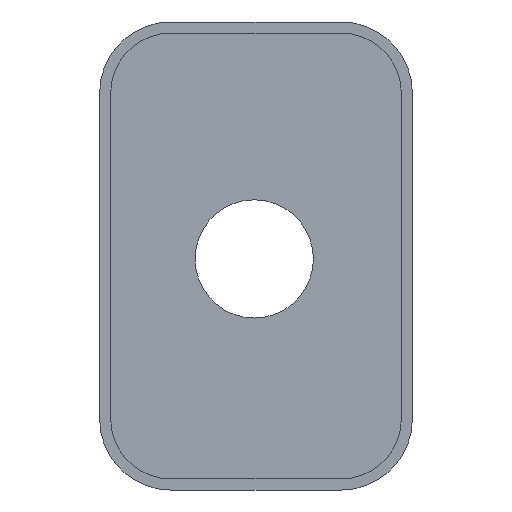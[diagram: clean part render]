
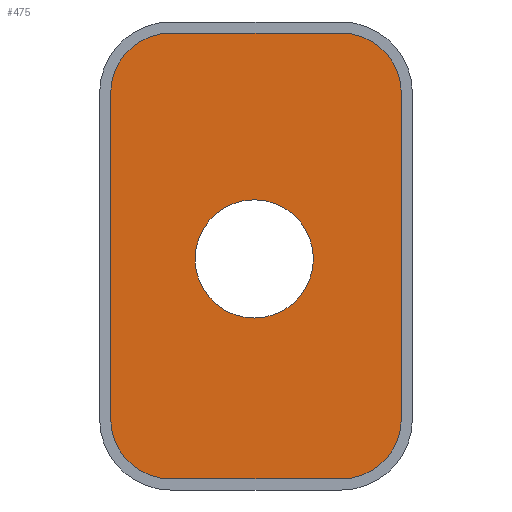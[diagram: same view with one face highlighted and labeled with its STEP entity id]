
A CAD part, front view. The second image highlights one B-rep face of the part: STEP entity #475.
In plain terms, the highlighted planar face has unit normal (0, -1, 0).
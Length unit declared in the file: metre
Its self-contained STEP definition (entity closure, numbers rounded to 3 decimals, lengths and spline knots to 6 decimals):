
#27=PLANE('',#540);
#37=CIRCLE('',#515,0.004272);
#47=CIRCLE('',#530,0.004346);
#48=CIRCLE('',#533,0.004346);
#49=CIRCLE('',#536,0.004346);
#50=CIRCLE('',#539,0.004346);
#150=ORIENTED_EDGE('',*,*,#216,.T.);
#151=ORIENTED_EDGE('',*,*,#237,.F.);
#152=ORIENTED_EDGE('',*,*,#251,.F.);
#153=ORIENTED_EDGE('',*,*,#249,.T.);
#154=ORIENTED_EDGE('',*,*,#247,.F.);
#155=ORIENTED_EDGE('',*,*,#245,.T.);
#156=ORIENTED_EDGE('',*,*,#243,.F.);
#157=ORIENTED_EDGE('',*,*,#241,.F.);
#158=ORIENTED_EDGE('',*,*,#239,.F.);
#216=EDGE_CURVE('',#277,#277,#37,.T.);
#237=EDGE_CURVE('',#295,#296,#328,.T.);
#239=EDGE_CURVE('',#296,#297,#47,.T.);
#241=EDGE_CURVE('',#297,#298,#331,.T.);
#243=EDGE_CURVE('',#298,#299,#48,.T.);
#245=EDGE_CURVE('',#300,#299,#334,.T.);
#247=EDGE_CURVE('',#300,#301,#49,.T.);
#249=EDGE_CURVE('',#302,#301,#337,.T.);
#251=EDGE_CURVE('',#302,#295,#50,.T.);
#277=VERTEX_POINT('',#766);
#295=VERTEX_POINT('',#808);
#296=VERTEX_POINT('',#810);
#297=VERTEX_POINT('',#814);
#298=VERTEX_POINT('',#818);
#299=VERTEX_POINT('',#822);
#300=VERTEX_POINT('',#826);
#301=VERTEX_POINT('',#830);
#302=VERTEX_POINT('',#834);
#328=LINE('',#809,#364);
#331=LINE('',#817,#367);
#334=LINE('',#825,#370);
#337=LINE('',#833,#373);
#364=VECTOR('',#647,1.);
#367=VECTOR('',#656,1.);
#370=VECTOR('',#665,1.);
#373=VECTOR('',#674,1.);
#397=EDGE_LOOP('',(#150));
#398=EDGE_LOOP('',(#151,#152,#153,#154,#155,#156,#157,#158));
#431=FACE_BOUND('',#397,.T.);
#432=FACE_BOUND('',#398,.T.);
#475=ADVANCED_FACE('',(#431,#432),#27,.F.);
#515=AXIS2_PLACEMENT_3D('',#765,#608,#609);
#530=AXIS2_PLACEMENT_3D('',#813,#651,#652);
#533=AXIS2_PLACEMENT_3D('',#821,#660,#661);
#536=AXIS2_PLACEMENT_3D('',#829,#669,#670);
#539=AXIS2_PLACEMENT_3D('',#837,#678,#679);
#540=AXIS2_PLACEMENT_3D('',#838,#680,#681);
#608=DIRECTION('',(0.,1.,0.));
#609=DIRECTION('',(1.,0.,0.));
#647=DIRECTION('',(0.,0.,1.));
#651=DIRECTION('',(0.,1.,0.));
#652=DIRECTION('',(-1.,0.,0.));
#656=DIRECTION('',(1.,0.,0.));
#660=DIRECTION('',(0.,1.,0.));
#661=DIRECTION('',(0.,0.,1.));
#665=DIRECTION('',(0.,0.,1.));
#669=DIRECTION('',(0.,1.,0.));
#670=DIRECTION('',(1.,0.,0.));
#674=DIRECTION('',(1.,0.,0.));
#678=DIRECTION('',(0.,1.,0.));
#679=DIRECTION('',(0.,0.,-1.));
#680=DIRECTION('',(0.,1.,0.));
#681=DIRECTION('',(1.,0.,0.));
#765=CARTESIAN_POINT('',(0.12805,0.00987,0.078203));
#766=CARTESIAN_POINT('',(0.132322,0.00987,0.078203));
#808=CARTESIAN_POINT('',(0.117676,0.00987,0.066649));
#809=CARTESIAN_POINT('',(0.117676,0.00987,0.078412));
#810=CARTESIAN_POINT('',(0.117676,0.00987,0.090175));
#813=CARTESIAN_POINT('',(0.122021,0.00987,0.090175));
#814=CARTESIAN_POINT('',(0.122021,0.00987,0.094521));
#817=CARTESIAN_POINT('',(0.128177,0.00987,0.094521));
#818=CARTESIAN_POINT('',(0.134332,0.00987,0.094521));
#821=CARTESIAN_POINT('',(0.134332,0.00987,0.090175));
#822=CARTESIAN_POINT('',(0.138678,0.00987,0.090175));
#825=CARTESIAN_POINT('',(0.138678,0.00987,0.078412));
#826=CARTESIAN_POINT('',(0.138678,0.00987,0.066649));
#829=CARTESIAN_POINT('',(0.134332,0.00987,0.066649));
#830=CARTESIAN_POINT('',(0.134332,0.00987,0.062303));
#833=CARTESIAN_POINT('',(0.128177,0.00987,0.062303));
#834=CARTESIAN_POINT('',(0.122021,0.00987,0.062303));
#837=CARTESIAN_POINT('',(0.122021,0.00987,0.066649));
#838=CARTESIAN_POINT('',(0.126077,0.00987,0.078412));
